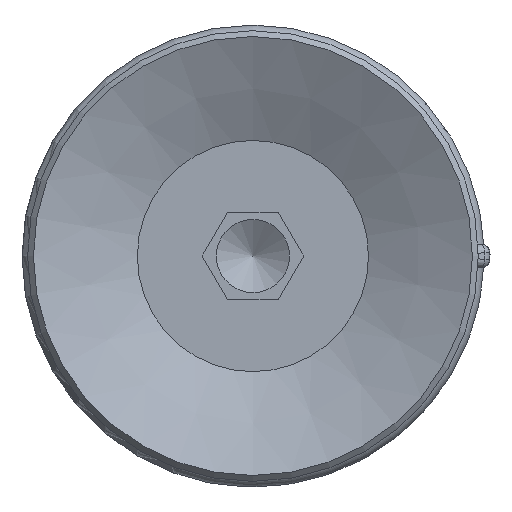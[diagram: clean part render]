
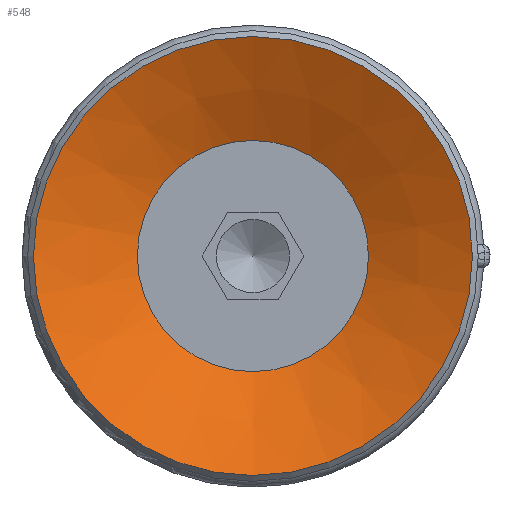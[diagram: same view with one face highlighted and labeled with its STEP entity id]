
A CAD part, front view. The second image highlights one B-rep face of the part: STEP entity #548.
In plain terms, the highlighted conical face has half-angle 64 degrees and reference radius 3.95 mm.
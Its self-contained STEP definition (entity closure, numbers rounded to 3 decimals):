
#548=ADVANCED_FACE('',(#797,#798),#799,.F.);
#797=FACE_BOUND('',#1128,.T.);
#798=FACE_OUTER_BOUND('',#1129,.T.);
#799=CONICAL_SURFACE('',#1130,3.95,1.117);
#1128=EDGE_LOOP('',(#1915));
#1129=EDGE_LOOP('',(#1916));
#1130=AXIS2_PLACEMENT_3D('',#1917,#1918,#1919);
#1915=ORIENTED_EDGE('',*,*,#2281,.F.);
#1916=ORIENTED_EDGE('',*,*,#2282,.T.);
#1917=CARTESIAN_POINT('',(0.0,-29.404,-47.168));
#1918=DIRECTION('',(-0.0,0.,1.0));
#1919=DIRECTION('',(0.0,-1.0,0.));
#2281=EDGE_CURVE('',#2640,#2640,#2641,.T.);
#2282=EDGE_CURVE('',#2642,#2642,#2643,.T.);
#2640=VERTEX_POINT('',#3612);
#2641=CIRCLE('',#3613,3.95);
#2642=VERTEX_POINT('',#3614);
#2643=CIRCLE('',#3615,7.5);
#3612=CARTESIAN_POINT('',(0.0,-33.354,-47.168));
#3613=AXIS2_PLACEMENT_3D('',#3965,#3966,#3967);
#3614=CARTESIAN_POINT('',(0.0,-36.904,-45.437));
#3615=AXIS2_PLACEMENT_3D('',#3968,#3969,#3970);
#3965=CARTESIAN_POINT('',(0.0,-29.404,-47.168));
#3966=DIRECTION('',(0.0,0.,1.0));
#3967=DIRECTION('',(0.0,-1.0,0.));
#3968=CARTESIAN_POINT('',(0.0,-29.404,-45.437));
#3969=DIRECTION('',(0.0,0.,1.0));
#3970=DIRECTION('',(0.0,-1.0,0.));
